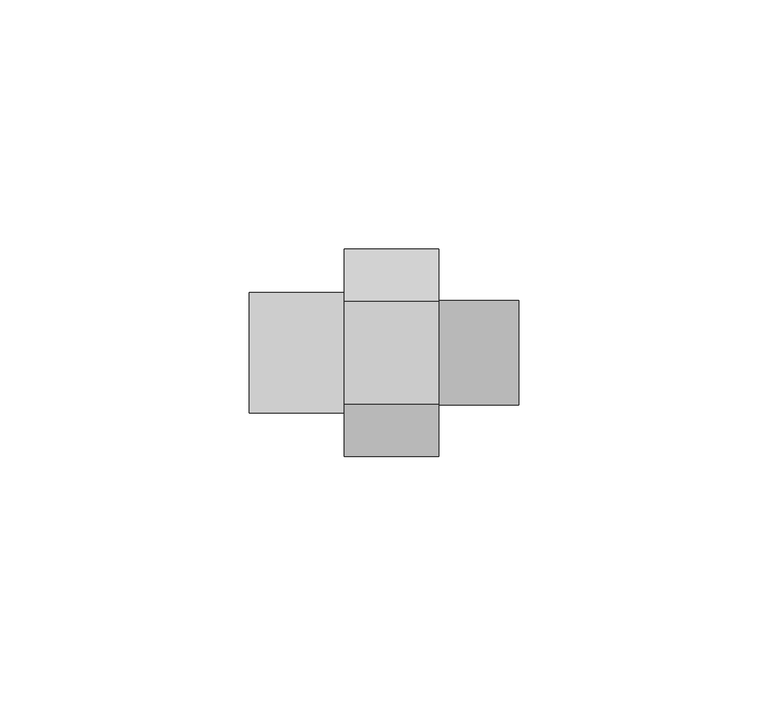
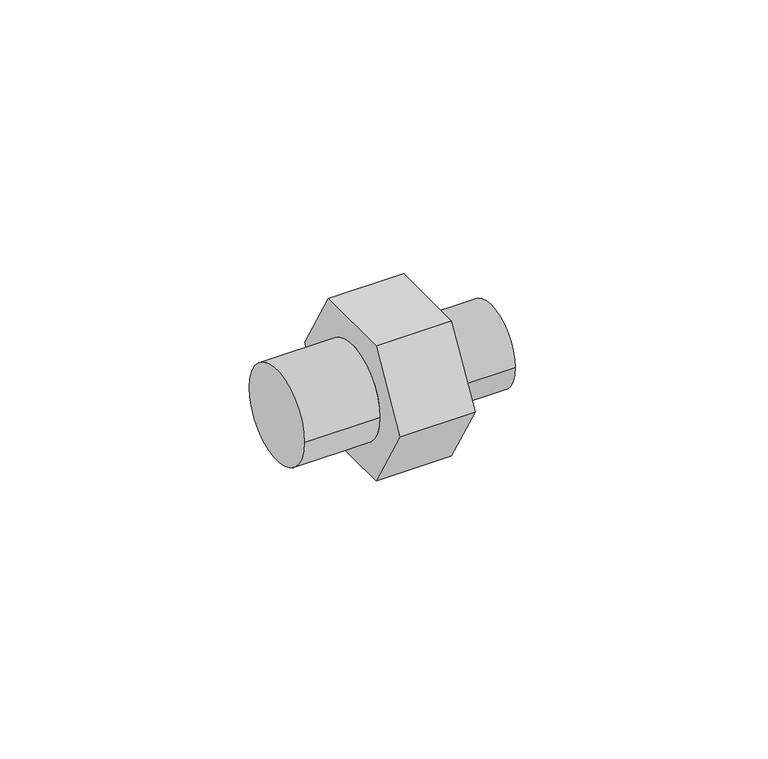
"""IFC4 building model written with IfcOpenShell, lengths in millimetres: pipe fitting geometry, 01011197 : Mamelons doubles réduction."""

import ifcopenshell
import ifcopenshell.guid

model = None  # the IFC model being written
_history = None  # IfcOwnerHistory: only IFC2X3 demands one
_inside = {}  # id of a spatial element -> (the spatial element, [elements in it])
_under = {}  # id of a project, library or spatial element -> (it, [spatial elements below it])
_declared = {}  # id of a project -> (the project, [libraries it declares])
_typed = {}  # id of a type object -> (the type object, [elements of that type])
_made_of = {}  # id of a material, layer set ... -> (it, [elements and type objects made of it])


def new_model(schema):
    """Start an empty IFC model of exactly this schema.

    Asked for "IFC4X3", IfcOpenShell would pick the latest addendum, in which some entities
    have other attributes; the version numbers below select the first issue.
    IFC2X3 requires an IfcOwnerHistory on every rooted entity: one is made here for all.
    """
    global model, _history
    if schema == "IFC4X3":
        model = ifcopenshell.file(schema_version=(4, 3, 0, 0))
    else:
        model = ifcopenshell.file(schema=schema)
    _inside.clear()
    _under.clear()
    _declared.clear()
    _typed.clear()
    _made_of.clear()
    _history = None
    if model.schema == "IFC2X3":
        org = make("IfcOrganization", Name="unknown")
        user = make(
            "IfcPersonAndOrganization",
            ThePerson=make("IfcPerson", FamilyName="unknown"),
            TheOrganization=org,
        )
        app = make(
            "IfcApplication",
            ApplicationDeveloper=org,
            Version="unknown",
            ApplicationFullName="unknown",
            ApplicationIdentifier="unknown",
        )
        _history = make(
            "IfcOwnerHistory",
            OwningUser=user,
            OwningApplication=app,
            ChangeAction="ADDED",
            CreationDate=0,
        )
    return model


def make(cls, **values):
    """One entity of the class cls with the attributes given. An attribute that is None is left unset."""
    return model.create_entity(
        cls, **{name: value for name, value in values.items() if value is not None}
    )


def rooted(cls, **values):
    """An entity with a GlobalId (a new one), such as an element, a storey or a relation."""
    return make(cls, GlobalId=ifcopenshell.guid.new(), OwnerHistory=_history, **values)


def si_unit(unit_type, name, prefix=None):
    """IfcSIUnit, for example si_unit("LENGTHUNIT", "METRE", prefix="MILLI")."""
    return make("IfcSIUnit", UnitType=unit_type, Prefix=prefix, Name=name)


def assignment(units):
    """IfcUnitAssignment: the units of a project."""
    return None if units is None else make("IfcUnitAssignment", Units=units)


def point(xyz):
    """IfcCartesianPoint."""
    return None if xyz is None else make("IfcCartesianPoint", Coordinates=xyz)


def direction(xyz):
    """IfcDirection."""
    return None if xyz is None else make("IfcDirection", DirectionRatios=xyz)


def frame(location, z_axis=None, x_axis=None):
    """IfcAxis2Placement3D, a coordinate frame: its origin and axes. An axis left out is left unset."""
    return make(
        "IfcAxis2Placement3D",
        Location=point(location),
        Axis=direction(z_axis),
        RefDirection=direction(x_axis),
    )


def origin():
    """The frame at (0, 0, 0) with its axes left unset."""
    return frame((0.0, 0.0, 0.0))


def place(relative_to, where):
    """IfcLocalPlacement: puts the frame where relative to a parent placement (None: the world)."""
    return make(
        "IfcLocalPlacement", PlacementRelTo=relative_to, RelativePlacement=where
    )


def context(
    kind, dimensions, precision=None, world=None, true_north=None, identifier=None
):
    """IfcGeometricRepresentationContext, for example the 3D "Model" context."""
    return make(
        "IfcGeometricRepresentationContext",
        ContextIdentifier=identifier,
        ContextType=kind,
        CoordinateSpaceDimension=dimensions,
        Precision=precision,
        WorldCoordinateSystem=world,
        TrueNorth=true_north,
    )


def project(units=None, contexts=None):
    """IfcProject with its units and contexts."""
    return rooted(
        "IfcProject",
        Name="project",
        RepresentationContexts=contexts,
        UnitsInContext=assignment(units),
    )


def spatial(cls, under=None, at=None, **own):
    """A site, building, storey or space (cls), placed at a placement, below another one or the project."""
    s = rooted(cls, ObjectPlacement=at, **own)
    if under is not None:
        _under.setdefault(under.id(), (under, []))[1].append(s)
    return s


def circle_curve(where, radius):
    """IfcCircle in the frame where."""
    return make("IfcCircle", Position=where, Radius=radius)


def shape(context_of_items, identifier, shape_type, items):
    """IfcShapeRepresentation: the items that make up one representation, for example the "Body"."""
    return make(
        "IfcShapeRepresentation",
        ContextOfItems=context_of_items,
        RepresentationIdentifier=identifier,
        RepresentationType=shape_type,
        Items=items,
    )


def source(mapping_origin, context_of_items, identifier, shape_type, items):
    """IfcRepresentationMap: a shape defined once, which mapped items show again and again."""
    return make(
        "IfcRepresentationMap",
        MappingOrigin=mapping_origin,
        MappedRepresentation=shape(context_of_items, identifier, shape_type, items),
    )


def transform(
    local_origin,
    x_axis=None,
    y_axis=None,
    z_axis=None,
    scale=None,
    scale2=None,
    scale3=None,
    uniform=True,
):
    """IfcCartesianTransformationOperator3D, or its non-uniform kind. x_axis, y_axis, z_axis: its Axis1, 2, 3."""
    if uniform:
        return make(
            "IfcCartesianTransformationOperator3D",
            Axis1=direction(x_axis),
            Axis2=direction(y_axis),
            LocalOrigin=point(local_origin),
            Scale=scale,
            Axis3=direction(z_axis),
        )
    return make(
        "IfcCartesianTransformationOperator3DnonUniform",
        Axis1=direction(x_axis),
        Axis2=direction(y_axis),
        LocalOrigin=point(local_origin),
        Scale=scale,
        Axis3=direction(z_axis),
        Scale2=scale2,
        Scale3=scale3,
    )


def mapped(mapping_source, mapping_target):
    """IfcMappedItem: shows the shape of a source again, moved by a transform."""
    return make(
        "IfcMappedItem", MappingSource=mapping_source, MappingTarget=mapping_target
    )


def made_of(thing, what):
    """Note that an element or type object is made of a material, layer set ...; save() writes the relation."""
    if what is not None:
        _made_of.setdefault(what.id(), (what, []))[1].append(thing)
    return thing


def element(
    cls,
    number,
    at=None,
    inside=None,
    cuts=None,
    type_object=None,
    material=None,
    context=None,
    identifier="Body",
    shape_type=None,
    held_by="IfcProductDefinitionShape",
    body=None,
    shapes=None,
    **own,
):
    """One element of the class cls, such as IfcWall. Its Tag is "e" and its number.

    at: its placement. inside: the storey or other place that contains it. cuts: it is an
    opening in that element (IfcRelVoidsElement). A single representation is given by context,
    identifier, shape_type and body (its items); several are given by shapes. held_by: the class
    of the entity that holds the representations. save() writes the other relations.
    """
    e = rooted(cls, Tag="e%d" % number, ObjectPlacement=at, **own)
    if body is not None:
        shapes = [shape(context, identifier, shape_type, body)]
    if shapes is not None:
        e.Representation = make(held_by, Representations=shapes)
    if inside is not None:
        _inside.setdefault(inside.id(), (inside, []))[1].append(e)
    if cuts is not None:
        rooted(
            "IfcRelVoidsElement", RelatingBuildingElement=cuts, RelatedOpeningElement=e
        )
    if type_object is not None:
        _typed.setdefault(type_object.id(), (type_object, []))[1].append(e)
    return made_of(e, material)


def aggregate(whole, parts):
    """IfcRelAggregates: a whole, such as a stair, and the parts it consists of."""
    return rooted("IfcRelAggregates", RelatingObject=whole, RelatedObjects=parts)


def save(model, path):
    """Write the relations noted so far, then the file.

    IfcRelAggregates (storeys below a building ...), IfcRelContainedInSpatialStructure (elements
    in a storey), IfcRelDefinesByType, IfcRelAssociatesMaterial and IfcRelDeclares: one each for
    every whole, place, type object, material and project.
    """
    for whole, parts in _under.values():
        aggregate(whole, parts)
    for where, things in _inside.values():
        rooted(
            "IfcRelContainedInSpatialStructure",
            RelatedElements=things,
            RelatingStructure=where,
        )
    for kind, things in _typed.values():
        rooted("IfcRelDefinesByType", RelatedObjects=things, RelatingType=kind)
    for what, things in _made_of.values():
        rooted("IfcRelAssociatesMaterial", RelatedObjects=things, RelatingMaterial=what)
    for by, libraries in _declared.values():
        rooted("IfcRelDeclares", RelatingContext=by, RelatedDefinitions=libraries)
    model.write(path)


def plane_surface(at):
    """IfcPlane: the flat surface through the origin of the frame at, square to its z axis."""
    return make("IfcPlane", Position=at)


def cylinder_surface(at, radius):
    """IfcCylindricalSurface: all points at the distance radius from the z axis of the frame at."""
    return make("IfcCylindricalSurface", Position=at, Radius=radius)


def advanced_brep(points, edges, surfaces, faces):
    """IfcAdvancedBrep: a solid bounded by faces that lie on surfaces and meet in shared edges.

    An edge is (start, end): straight between two places in points (the first is 0);
    or (start, end, curve); or (start, end, curve, False) where it runs against its curve.
    A face is (place in surfaces, loops), or (place, loops, False) where it looks against
    its surface's normal. A loop lists edges by number (the first is 1), with a minus sign
    where the edge is run from its end to its start. The first loop is the outer one.
    """
    corners = [point(p) for p in points]
    vertices = [make("IfcVertexPoint", VertexGeometry=c) for c in corners]
    made = []
    for start, end, *more in edges:
        made.append(
            make(
                "IfcEdgeCurve",
                EdgeStart=vertices[start],
                EdgeEnd=vertices[end],
                EdgeGeometry=more[0] if more else make("IfcPolyline", Points=[corners[start], corners[end]]),
                SameSense=more[1] if len(more) > 1 else True,
            )
        )
    hull = []
    for where, loops, *sense in faces:
        bounds = []
        for j, loop in enumerate(loops):
            ring = [make("IfcOrientedEdge", EdgeElement=made[abs(k) - 1], Orientation=k > 0) for k in loop]
            bounds.append(
                make(
                    "IfcFaceOuterBound" if j == 0 else "IfcFaceBound",
                    Bound=make("IfcEdgeLoop", EdgeList=ring),
                    Orientation=True,
                )
            )
        hull.append(make("IfcAdvancedFace", Bounds=bounds, FaceSurface=surfaces[where], SameSense=sense[0] if sense else True))
    return make("IfcAdvancedBrep", Outer=make("IfcClosedShell", CfsFaces=hull))


def pipe_fitting_20d80e3f(model_context):
    return source(origin(), model_context, "Body", "AdvancedBrep", [
        advanced_brep(
        [(38.0, -10.3923048, 18.0), (38.0, -20.7846097, 0.0), (38.0, -10.3923048, -18.0), (38.0, 10.3923048, -18.0), (38.0, 20.7846097, 0.0), (38.0, 10.3923048, 18.0), (38.0, -10.4775, 0.0), (38.0, 10.4775, 0.0), (19.0, -10.3923048, 18.0), (19.0, 10.3923048, 18.0), (19.0, 20.7846097, 0.0), (19.0, 10.3923048, -18.0), (19.0, -10.3923048, -18.0), (19.0, -20.7846097, 0.0), (19.0, 12.065, 0.0), (19.0, -12.065, 0.0), (54.0, -10.4775, 0.0), (54.0, 10.4775, 0.0), (0.0, 12.065, 0.0), (0.0, -12.065, 0.0)],
        [
            (0, 1),
            (1, 2),
            (2, 3),
            (3, 4),
            (4, 5),
            (5, 0),
            (6, 7, circle_curve(frame((38.0, 0.0, 0.0), z_axis=(-1.0, 0.0, 0.0), x_axis=(0.0, 1.0, 0.0)), 10.4775)),
            (7, 6, circle_curve(frame((38.0, 0.0, 0.0), z_axis=(-1.0, 0.0, 0.0), x_axis=(0.0, 1.0, 0.0)), 10.4775)),
            (8, 9),
            (9, 10),
            (10, 11),
            (11, 12),
            (12, 13),
            (13, 8),
            (14, 15, circle_curve(frame((19.0, 0.0, 0.0), z_axis=(1.0, 0.0, 0.0), x_axis=(0.0, -1.0, 0.0)), 12.065)),
            (15, 14, circle_curve(frame((19.0, 0.0, 0.0), z_axis=(1.0, 0.0, 0.0), x_axis=(0.0, -1.0, 0.0)), 12.065)),
            (0, 8),
            (13, 1),
            (12, 2),
            (11, 3),
            (10, 4),
            (9, 5),
            (16, 17, circle_curve(frame((54.0, 0.0, 0.0), z_axis=(1.0, 0.0, 0.0), x_axis=(0.0, 1.0, 0.0)), 10.4775)),
            (17, 16, circle_curve(frame((54.0, 0.0, 0.0), z_axis=(1.0, 0.0, 0.0), x_axis=(0.0, 1.0, 0.0)), 10.4775)),
            (17, 7),
            (6, 16),
            (18, 19, circle_curve(frame((0.0, 0.0, 0.0), z_axis=(-1.0, 0.0, 0.0), x_axis=(0.0, -1.0, 0.0)), 12.065)),
            (19, 18, circle_curve(frame((0.0, 0.0, 0.0), z_axis=(-1.0, 0.0, 0.0), x_axis=(0.0, -1.0, 0.0)), 12.065)),
            (19, 15),
            (14, 18),
        ],
        [
            plane_surface(frame((38.0, -10.3923048, 18.0), z_axis=(1.0, 0.0, 0.0), x_axis=(0.0, -0.5000000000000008, -0.8660254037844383))),
            plane_surface(frame((19.0, -10.3923048, 18.0), z_axis=(-1.0, 0.0, 0.0), x_axis=(0.0, 0.5000000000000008, 0.8660254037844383))),
            plane_surface(frame((38.0, -10.3923048, 18.0), z_axis=(0.0, -0.8660254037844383, 0.5000000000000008), x_axis=(-1.0, 0.0, 0.0))),
            plane_surface(frame((38.0, -20.7846097, 0.0), z_axis=(0.0, -0.8660254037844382, -0.500000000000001), x_axis=(-1.0, 0.0, 0.0))),
            plane_surface(frame((38.0, -10.3923048, -18.0), z_axis=(0.0, 0.0, -1.0), x_axis=(-1.0, 0.0, 0.0))),
            plane_surface(frame((38.0, 10.3923048, -18.0), z_axis=(0.0, 0.8660254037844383, -0.5000000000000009), x_axis=(-1.0, 0.0, 0.0))),
            plane_surface(frame((38.0, 20.7846097, 0.0), z_axis=(0.0, 0.8660254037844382, 0.500000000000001), x_axis=(-1.0, 0.0, 0.0))),
            plane_surface(frame((38.0, 10.3923048, 18.0), z_axis=(0.0, 0.0, 1.0), x_axis=(-1.0, 0.0, 0.0))),
            plane_surface(frame((54.0, 0.0, 0.0), z_axis=(1.0, 0.0, 0.0), x_axis=(0.0, 0.0, 1.0))),
            cylinder_surface(frame((38.0, 0.0, 0.0), z_axis=(-1.0, 0.0, 0.0), x_axis=(0.0, 1.0, 0.0)), 10.4775),
            plane_surface(frame((0.0, 0.0, 0.0), z_axis=(-1.0, 0.0, 0.0), x_axis=(0.0, 0.0, 1.0))),
            cylinder_surface(frame((19.0, 0.0, 0.0), z_axis=(1.0, 0.0, 0.0), x_axis=(0.0, -1.0, 0.0)), 12.065),
        ],
        [
            (0, [[1, 2, 3, 4, 5, 6], [7, 8]]),
            (1, [[9, 10, 11, 12, 13, 14], [15, 16]]),
            (2, [[-1, 17, -14, 18]]),
            (3, [[-2, -18, -13, 19]]),
            (4, [[-3, -19, -12, 20]]),
            (5, [[-4, -20, -11, 21]]),
            (6, [[-5, -21, -10, 22]]),
            (7, [[-6, -22, -9, -17]]),
            (8, [[23, 24]]),
            (9, [[-24, 25, -7, 26]]),
            (9, [[-23, -26, -8, -25]]),
            (10, [[27, 28]]),
            (11, [[-28, 29, -15, 30]]),
            (11, [[-27, -30, -16, -29]]),
        ],
    ),
    ])


if __name__ == "__main__":
    model = new_model("IFC4")
    model_context = context("Model", 3, world=origin())
    ifc_project = project(units=[si_unit("LENGTHUNIT", "METRE", prefix="MILLI")], contexts=[model_context])
    site = spatial("IfcSite", under=ifc_project)
    building = spatial("IfcBuilding", under=site)
    placement = place(None, origin())
    pipe_fitting_shape = pipe_fitting_20d80e3f(model_context)
    element("IfcPipeFitting", 1, ObjectType="01011197 : Mamelons doubles réduction", at=placement, inside=building, context=model_context, shape_type="MappedRepresentation", body=[
        mapped(pipe_fitting_shape, transform((0.0, 0.0, 0.0), x_axis=(1.0, 0.0, 0.0), y_axis=(0.0, 1.0, 0.0), z_axis=(0.0, 0.0, 1.0))),
    ])
    save(model, "model.ifc")
